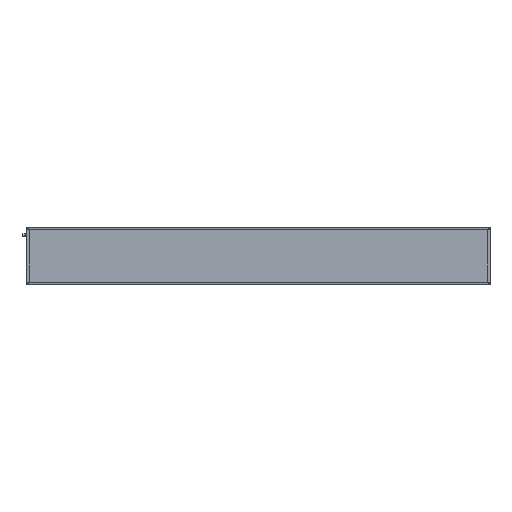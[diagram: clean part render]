
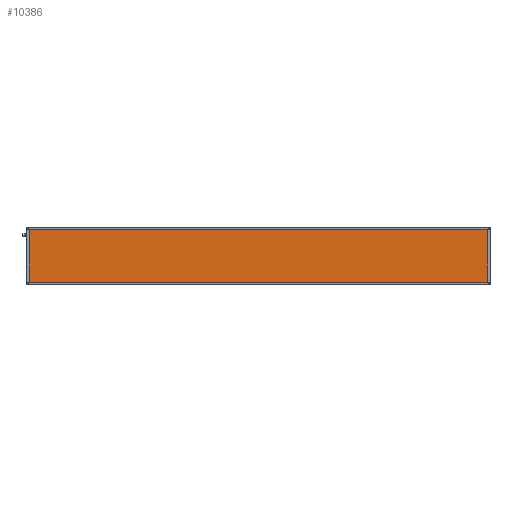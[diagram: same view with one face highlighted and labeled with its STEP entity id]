
A CAD part, top view. The second image highlights one B-rep face of the part: STEP entity #10386.
In plain terms, the highlighted planar face has unit normal (0, 0, 1).
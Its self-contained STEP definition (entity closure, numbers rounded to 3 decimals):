
#173 = CARTESIAN_POINT ( 'NONE',  ( 0., 196., 41.85 ) ) ;
#239 = VECTOR ( 'NONE', #15908, 1000. ) ;
#563 = CARTESIAN_POINT ( 'NONE',  ( 1696., 196., 41.85 ) ) ;
#754 = FACE_OUTER_BOUND ( 'NONE', #14884, .T. ) ;
#1104 = CARTESIAN_POINT ( 'NONE',  ( 4., 0., 41.85 ) ) ;
#1629 = LINE ( 'NONE', #7209, #2088 ) ;
#1661 = LINE ( 'NONE', #173, #10703 ) ;
#2088 = VECTOR ( 'NONE', #12338, 1000. ) ;
#2837 = VERTEX_POINT ( 'NONE', #3771 ) ;
#2897 = VERTEX_POINT ( 'NONE', #6814 ) ;
#3299 = EDGE_CURVE ( 'NONE', #2837, #9728, #14898, .T. ) ;
#3359 = EDGE_CURVE ( 'NONE', #9728, #2897, #1661, .T. ) ;
#3771 = CARTESIAN_POINT ( 'NONE',  ( 1696., 4., 41.85 ) ) ;
#4344 = AXIS2_PLACEMENT_3D ( 'NONE', #5978, #16779, #5898 ) ;
#4692 = PLANE ( 'NONE',  #4344 ) ;
#5381 = ORIENTED_EDGE ( 'NONE', *, *, #3359, .T. ) ;
#5898 = DIRECTION ( 'NONE',  ( -1., 0., 0. ) ) ;
#5978 = CARTESIAN_POINT ( 'NONE',  ( 0., 0., 41.85 ) ) ;
#6023 = ORIENTED_EDGE ( 'NONE', *, *, #15194, .T. ) ;
#6712 = DIRECTION ( 'NONE',  ( 0., 1., 0. ) ) ;
#6814 = CARTESIAN_POINT ( 'NONE',  ( 4., 196., 41.85 ) ) ;
#7075 = VECTOR ( 'NONE', #6712, 1000. ) ;
#7209 = CARTESIAN_POINT ( 'NONE',  ( 0., 4., 41.85 ) ) ;
#9273 = EDGE_CURVE ( 'NONE', #13681, #2837, #1629, .T. ) ;
#9728 = VERTEX_POINT ( 'NONE', #563 ) ;
#10018 = CARTESIAN_POINT ( 'NONE',  ( 1696., 0., 41.85 ) ) ;
#10386 = ADVANCED_FACE ( 'NONE', ( #754 ), #4692, .F. ) ;
#10609 = LINE ( 'NONE', #1104, #239 ) ;
#10703 = VECTOR ( 'NONE', #10904, 1000. ) ;
#10904 = DIRECTION ( 'NONE',  ( -1., 0., 0. ) ) ;
#12292 = CARTESIAN_POINT ( 'NONE',  ( 4., 4., 41.85 ) ) ;
#12338 = DIRECTION ( 'NONE',  ( 1., 0., 0. ) ) ;
#12757 = ORIENTED_EDGE ( 'NONE', *, *, #9273, .T. ) ;
#13681 = VERTEX_POINT ( 'NONE', #12292 ) ;
#14455 = ORIENTED_EDGE ( 'NONE', *, *, #3299, .T. ) ;
#14884 = EDGE_LOOP ( 'NONE', ( #14455, #5381, #6023, #12757 ) ) ;
#14898 = LINE ( 'NONE', #10018, #7075 ) ;
#15194 = EDGE_CURVE ( 'NONE', #2897, #13681, #10609, .T. ) ;
#15908 = DIRECTION ( 'NONE',  ( 0., -1., 0. ) ) ;
#16779 = DIRECTION ( 'NONE',  ( 0., 0., -1. ) ) ;
